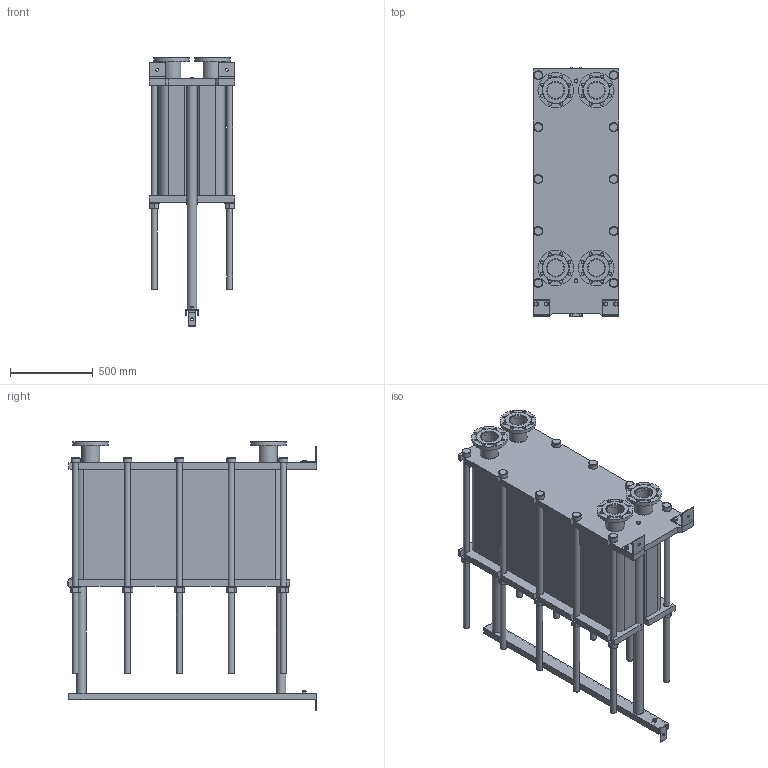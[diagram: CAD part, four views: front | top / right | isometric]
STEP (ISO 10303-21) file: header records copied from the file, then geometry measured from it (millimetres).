
FILE_DESCRIPTION(/* description */ (''),/* implementation_level */ '2;1');
FILE_NAME(/* name */ 'C:\Users\zhuro\Desktop\ENCO\TO\ЭН-04\ЭН-0,5-04-194-1.stp',/* time_stamp */ '2022-06-06T11:02:07+03:00',/* author */ ('zhuro'),/* organization */ (''),/* preprocessor_version */ 'ST-DEVELOPER v18.1',/* originating_system */ 'Autodesk Inventor 2022',/* authorisation */ '');
FILE_SCHEMA (('AUTOMOTIVE_DESIGN { 1 0 10303 214 3 1 1 }'));
Length unit declared in the file: millimetre
Products named in the file (1): ЭН-0,5-04-194-1
Bounding box: 520 x 1510 x 1632 mm (x, y, z)
Volume: 410752755 mm3; surface area: 10422330.8 mm2
Topology: 45 solids, 45 shells, 668 faces, 1611 edges, 1048 vertices
Faces by surface type: plane 457, cylinder 166, cone 39, torus 6
Full cylindrical faces by diameter (mm): 8 x4, 10 x2, 16 x8, 18 x35, 36 x25, 40 x2, 42 x1, 45 x4, 54 x10, 57 x2, 60 x10, 68 x2, 100 x4, 110 x8, 215 x4
Entity records: 23607 total; most frequent: CARTESIAN_POINT 7348, DIRECTION 3371, ORIENTED_EDGE 3142, EDGE_CURVE 1571, AXIS2_PLACEMENT_3D 1199, VERTEX_POINT 1044, LINE 973, VECTOR 973
